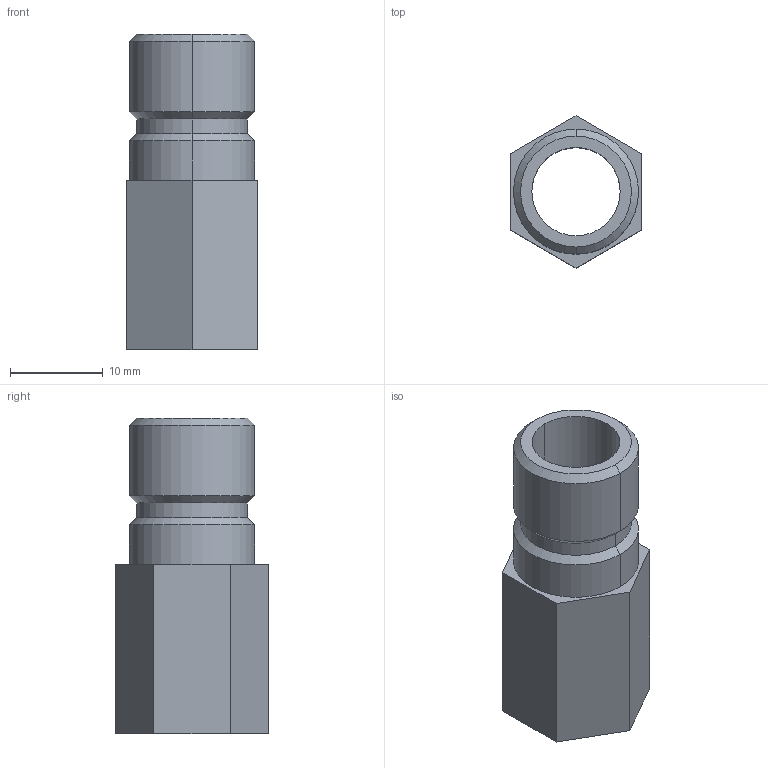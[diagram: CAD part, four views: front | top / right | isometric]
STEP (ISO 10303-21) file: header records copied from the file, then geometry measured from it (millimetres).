
FILE_DESCRIPTION (( 'STEP AP203' ), '1' );
FILE_NAME ('352F.step', '2020-08-19T04:03:08', ( 'Microsoft Corporation' ), ( 'MS' ), 'SwSTEP 2.0', 'SolidWorks 2018', '' );
FILE_SCHEMA (( 'CONFIG_CONTROL_DESIGN' ));
Length unit declared in the file: inch
Products named in the file (1): 352F
Bounding box: 14.22 x 16.42 x 34.04 mm (x, y, z)
Volume: 2570.9 mm3; surface area: 2847.4 mm2
Topology: 1 solids, 1 shells, 26 faces, 56 edges, 34 vertices
Faces by surface type: plane 10, cone 8, cylinder 8
Entity records: 785 total; most frequent: DIRECTION 132, CARTESIAN_POINT 117, ORIENTED_EDGE 112, EDGE_CURVE 56, AXIS2_PLACEMENT_3D 49, LINE 34, VERTEX_POINT 34, VECTOR 34
